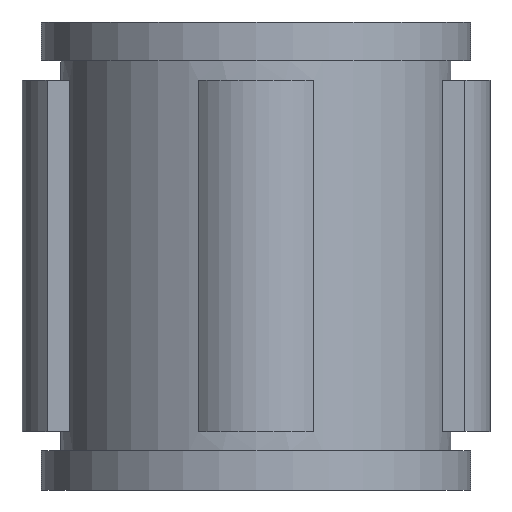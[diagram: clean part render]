
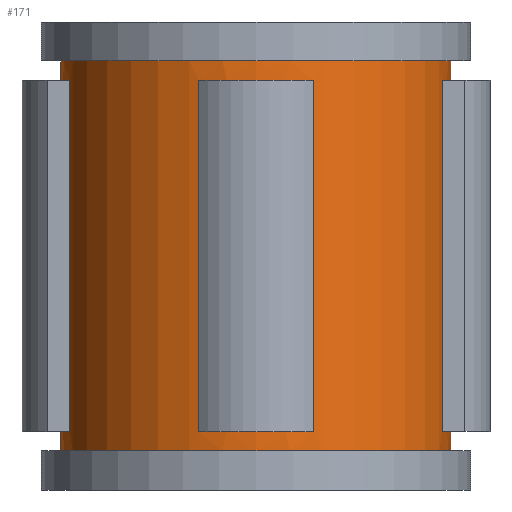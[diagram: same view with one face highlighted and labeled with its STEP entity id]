
A CAD part, front view. The second image highlights one B-rep face of the part: STEP entity #171.
In plain terms, the highlighted cylindrical face has radius 5 mm (diameter 10 mm), a full revolution.
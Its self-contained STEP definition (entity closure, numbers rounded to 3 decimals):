
#171=ADVANCED_FACE('',(#359,#360,#361,#362,#363,#364),#219,.T.);
#219=CYLINDRICAL_SURFACE('',#882,5.);
#231=LINE('',#1207,#295);
#232=LINE('',#1212,#296);
#233=LINE('',#1215,#297);
#234=LINE('',#1220,#298);
#235=LINE('',#1223,#299);
#236=LINE('',#1228,#300);
#237=LINE('',#1234,#301);
#238=LINE('',#1238,#302);
#295=VECTOR('',#966,1.);
#296=VECTOR('',#969,1.);
#297=VECTOR('',#972,1.);
#298=VECTOR('',#975,1.);
#299=VECTOR('',#978,1.);
#300=VECTOR('',#981,1.);
#301=VECTOR('',#986,1.);
#302=VECTOR('',#989,1.);
#359=FACE_BOUND('',#383,.T.);
#360=FACE_BOUND('',#384,.T.);
#361=FACE_BOUND('',#385,.T.);
#362=FACE_BOUND('',#386,.T.);
#363=FACE_BOUND('',#387,.T.);
#364=FACE_BOUND('',#388,.T.);
#383=EDGE_LOOP('',(#447));
#384=EDGE_LOOP('',(#448));
#385=EDGE_LOOP('',(#449,#450,#451,#452));
#386=EDGE_LOOP('',(#453,#454,#455,#456));
#387=EDGE_LOOP('',(#457,#458,#459,#460));
#388=EDGE_LOOP('',(#461,#462,#463,#464));
#447=ORIENTED_EDGE('',*,*,#727,.F.);
#448=ORIENTED_EDGE('',*,*,#728,.T.);
#449=ORIENTED_EDGE('',*,*,#729,.F.);
#450=ORIENTED_EDGE('',*,*,#730,.T.);
#451=ORIENTED_EDGE('',*,*,#731,.F.);
#452=ORIENTED_EDGE('',*,*,#732,.F.);
#453=ORIENTED_EDGE('',*,*,#733,.F.);
#454=ORIENTED_EDGE('',*,*,#734,.T.);
#455=ORIENTED_EDGE('',*,*,#735,.F.);
#456=ORIENTED_EDGE('',*,*,#736,.F.);
#457=ORIENTED_EDGE('',*,*,#737,.F.);
#458=ORIENTED_EDGE('',*,*,#738,.T.);
#459=ORIENTED_EDGE('',*,*,#739,.F.);
#460=ORIENTED_EDGE('',*,*,#740,.F.);
#461=ORIENTED_EDGE('',*,*,#741,.F.);
#462=ORIENTED_EDGE('',*,*,#742,.T.);
#463=ORIENTED_EDGE('',*,*,#743,.T.);
#464=ORIENTED_EDGE('',*,*,#744,.T.);
#655=VERTEX_POINT('',#1204);
#656=VERTEX_POINT('',#1206);
#657=VERTEX_POINT('',#1208);
#658=VERTEX_POINT('',#1209);
#659=VERTEX_POINT('',#1211);
#660=VERTEX_POINT('',#1213);
#661=VERTEX_POINT('',#1216);
#662=VERTEX_POINT('',#1217);
#663=VERTEX_POINT('',#1219);
#664=VERTEX_POINT('',#1221);
#665=VERTEX_POINT('',#1224);
#666=VERTEX_POINT('',#1225);
#667=VERTEX_POINT('',#1227);
#668=VERTEX_POINT('',#1229);
#669=VERTEX_POINT('',#1232);
#670=VERTEX_POINT('',#1233);
#671=VERTEX_POINT('',#1235);
#672=VERTEX_POINT('',#1237);
#727=EDGE_CURVE('',#655,#655,#831,.T.);
#728=EDGE_CURVE('',#656,#656,#832,.T.);
#729=EDGE_CURVE('',#657,#658,#231,.T.);
#730=EDGE_CURVE('',#657,#659,#833,.T.);
#731=EDGE_CURVE('',#660,#659,#232,.T.);
#732=EDGE_CURVE('',#658,#660,#834,.T.);
#733=EDGE_CURVE('',#661,#662,#233,.T.);
#734=EDGE_CURVE('',#661,#663,#835,.T.);
#735=EDGE_CURVE('',#664,#663,#234,.T.);
#736=EDGE_CURVE('',#662,#664,#836,.T.);
#737=EDGE_CURVE('',#665,#666,#235,.T.);
#738=EDGE_CURVE('',#665,#667,#837,.T.);
#739=EDGE_CURVE('',#668,#667,#236,.T.);
#740=EDGE_CURVE('',#666,#668,#838,.T.);
#741=EDGE_CURVE('',#669,#670,#839,.T.);
#742=EDGE_CURVE('',#669,#671,#237,.T.);
#743=EDGE_CURVE('',#671,#672,#840,.T.);
#744=EDGE_CURVE('',#672,#670,#238,.T.);
#831=CIRCLE('',#872,5.);
#832=CIRCLE('',#873,5.);
#833=CIRCLE('',#874,5.);
#834=CIRCLE('',#875,5.);
#835=CIRCLE('',#876,5.);
#836=CIRCLE('',#877,5.);
#837=CIRCLE('',#878,5.);
#838=CIRCLE('',#879,5.);
#839=CIRCLE('',#880,5.);
#840=CIRCLE('',#881,5.);
#872=AXIS2_PLACEMENT_3D('',#1203,#962,#963);
#873=AXIS2_PLACEMENT_3D('',#1205,#964,#965);
#874=AXIS2_PLACEMENT_3D('',#1210,#967,#968);
#875=AXIS2_PLACEMENT_3D('',#1214,#970,#971);
#876=AXIS2_PLACEMENT_3D('',#1218,#973,#974);
#877=AXIS2_PLACEMENT_3D('',#1222,#976,#977);
#878=AXIS2_PLACEMENT_3D('',#1226,#979,#980);
#879=AXIS2_PLACEMENT_3D('',#1230,#982,#983);
#880=AXIS2_PLACEMENT_3D('',#1231,#984,#985);
#881=AXIS2_PLACEMENT_3D('',#1236,#987,#988);
#882=AXIS2_PLACEMENT_3D('',#1239,#990,#991);
#962=DIRECTION('',(0.,0.,1.));
#963=DIRECTION('',(1.,0.,0.));
#964=DIRECTION('',(0.,0.,1.));
#965=DIRECTION('',(1.,0.,0.));
#966=DIRECTION('',(0.,0.,-1.));
#967=DIRECTION('',(0.,0.,1.));
#968=DIRECTION('',(1.,0.,0.));
#969=DIRECTION('',(0.,0.,1.));
#970=DIRECTION('',(0.,0.,1.));
#971=DIRECTION('',(1.,0.,0.));
#972=DIRECTION('',(0.,0.,-1.));
#973=DIRECTION('',(0.,0.,1.));
#974=DIRECTION('',(1.,0.,0.));
#975=DIRECTION('',(0.,0.,1.));
#976=DIRECTION('',(0.,0.,1.));
#977=DIRECTION('',(1.,0.,0.));
#978=DIRECTION('',(0.,0.,-1.));
#979=DIRECTION('',(0.,0.,1.));
#980=DIRECTION('',(1.,0.,0.));
#981=DIRECTION('',(0.,0.,1.));
#982=DIRECTION('',(0.,0.,1.));
#983=DIRECTION('',(1.,0.,0.));
#984=DIRECTION('',(0.,0.,-1.));
#985=DIRECTION('',(-1.,0.,0.));
#986=DIRECTION('',(0.,0.,-1.));
#987=DIRECTION('',(0.,0.,-1.));
#988=DIRECTION('',(-1.,0.,0.));
#989=DIRECTION('',(0.,0.,1.));
#990=DIRECTION('',(0.,0.,-1.));
#991=DIRECTION('',(-1.,0.,0.));
#1203=CARTESIAN_POINT('',(0.,0.,11.));
#1204=CARTESIAN_POINT('',(5.,0.,11.));
#1205=CARTESIAN_POINT('',(0.,0.,1.));
#1206=CARTESIAN_POINT('',(5.,0.,1.));
#1207=CARTESIAN_POINT('',(4.779,-1.471,12.));
#1208=CARTESIAN_POINT('',(4.779,-1.471,10.5));
#1209=CARTESIAN_POINT('',(4.779,-1.471,1.5));
#1210=CARTESIAN_POINT('',(0.,0.,10.5));
#1211=CARTESIAN_POINT('',(4.779,1.471,10.5));
#1212=CARTESIAN_POINT('',(4.779,1.471,12.));
#1213=CARTESIAN_POINT('',(4.779,1.471,1.5));
#1214=CARTESIAN_POINT('',(0.,0.,1.5));
#1215=CARTESIAN_POINT('',(1.471,4.779,12.));
#1216=CARTESIAN_POINT('',(1.471,4.779,10.5));
#1217=CARTESIAN_POINT('',(1.471,4.779,1.5));
#1218=CARTESIAN_POINT('',(0.,0.,10.5));
#1219=CARTESIAN_POINT('',(-1.471,4.779,10.5));
#1220=CARTESIAN_POINT('',(-1.471,4.779,12.));
#1221=CARTESIAN_POINT('',(-1.471,4.779,1.5));
#1222=CARTESIAN_POINT('',(0.,0.,1.5));
#1223=CARTESIAN_POINT('',(-4.779,1.471,12.));
#1224=CARTESIAN_POINT('',(-4.779,1.471,10.5));
#1225=CARTESIAN_POINT('',(-4.779,1.471,1.5));
#1226=CARTESIAN_POINT('',(0.,0.,10.5));
#1227=CARTESIAN_POINT('',(-4.779,-1.471,10.5));
#1228=CARTESIAN_POINT('',(-4.779,-1.471,12.));
#1229=CARTESIAN_POINT('',(-4.779,-1.471,1.5));
#1230=CARTESIAN_POINT('',(0.,0.,1.5));
#1231=CARTESIAN_POINT('',(0.,0.,10.5));
#1232=CARTESIAN_POINT('',(1.471,-4.779,10.5));
#1233=CARTESIAN_POINT('',(-1.471,-4.779,10.5));
#1234=CARTESIAN_POINT('',(1.471,-4.779,12.));
#1235=CARTESIAN_POINT('',(1.471,-4.779,1.5));
#1236=CARTESIAN_POINT('',(0.,0.,1.5));
#1237=CARTESIAN_POINT('',(-1.471,-4.779,1.5));
#1238=CARTESIAN_POINT('',(-1.471,-4.779,12.));
#1239=CARTESIAN_POINT('',(0.,0.,12.));
